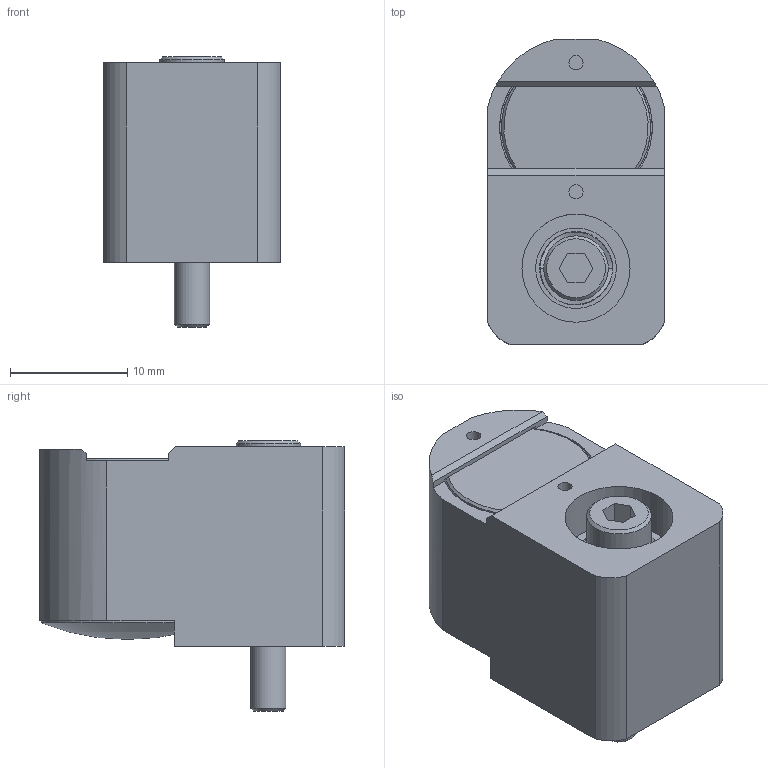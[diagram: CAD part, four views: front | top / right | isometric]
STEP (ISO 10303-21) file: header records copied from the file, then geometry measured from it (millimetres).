
FILE_DESCRIPTION(/* description */ (''),/* implementation_level */ '2;1');
FILE_NAME(/* name */ 'RLR10-A3-XF RETROREFLECTOR A3 ASSY.stp',/* time_stamp */ '2010-01-20T08:20:23+00:00',/* author */ (''),/* organization */ (''),/* preprocessor_version */ 'ST-DEVELOPER v11',/* originating_system */ 'SIEMENS UGS NX 6.0',/* authorisation */ '');
FILE_SCHEMA (('AUTOMOTIVE_DESIGN { 1 0 10303 214 1 1 1 1 }'));
Length unit declared in the file: millimetre
Products named in the file (1): mm11D42Ejd94
Bounding box: 15 x 26 x 23 mm (x, y, z)
Volume: 4271.3 mm3; surface area: 4237.2 mm2
Topology: 6 solids, 6 shells, 77 faces, 178 edges, 116 vertices
Faces by surface type: plane 43, cylinder 22, bspline 8, cone 3, sphere 1
Full cylindrical faces by diameter (mm): 1.2 x2, 3 x1, 3.3 x1, 5 x1, 5.5 x1, 6.85 x1, 9.2 x2, 10.4 x1, 12.4 x1, 12.7 x1, 13 x2, 13.6 x1, 14.7 x1
Entity records: 2733 total; most frequent: CARTESIAN_POINT 536, DIRECTION 339, ORIENTED_EDGE 300, EDGE_CURVE 150, AXIS2_PLACEMENT_3D 127, EDGE_LOOP 112, VERTEX_POINT 108, LINE 85
